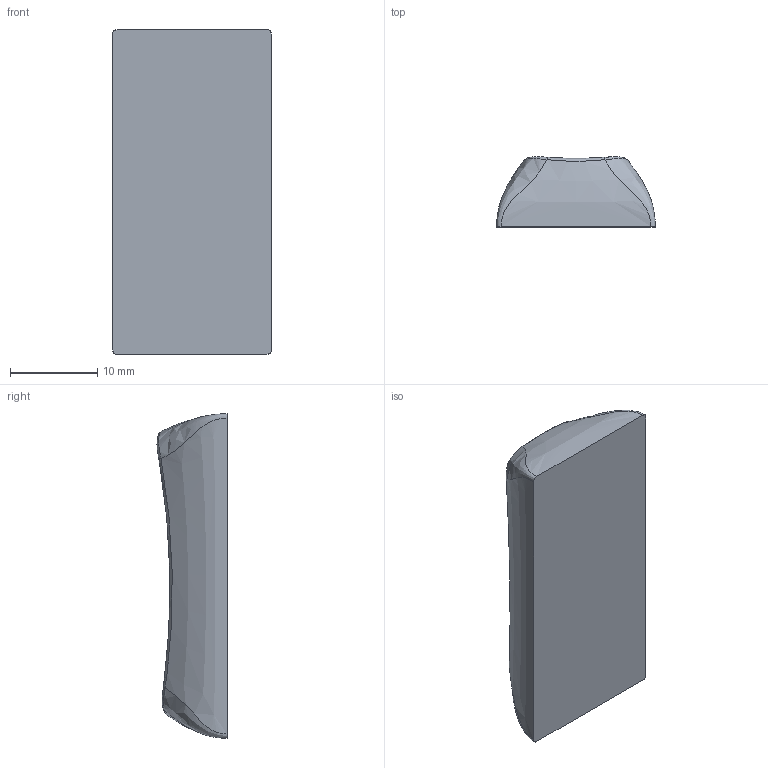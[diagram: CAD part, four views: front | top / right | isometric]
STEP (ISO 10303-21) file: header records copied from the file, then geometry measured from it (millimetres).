
FILE_DESCRIPTION (( 'STEP AP203' ), '1' );
FILE_NAME ('R2+3_2U-vertikal_base_v3.2.1_GMK.STEP', '2023-03-07T10:55:59', ( '' ), ( '' ), 'SwSTEP 2.0', 'SolidWorks 2022', '' );
FILE_SCHEMA (( 'CONFIG_CONTROL_DESIGN' ));
Length unit declared in the file: millimetre
Products named in the file (1): R2+3_2U-vertikal_base_v3.2.1_GMK
Bounding box: 18.2 x 8.03 x 37.25 mm (x, y, z)
Volume: 3964.4 mm3; surface area: 1865.1 mm2
Topology: 1 solids, 1 shells, 18 faces, 40 edges, 24 vertices
Faces by surface type: bspline 17, plane 1
Entity records: 3156 total; most frequent: CARTESIAN_POINT 2825, ORIENTED_EDGE 80, EDGE_CURVE 40, B_SPLINE_CURVE_WITH_KNOTS 36, VERTEX_POINT 24, EDGE_LOOP 18, FACE_OUTER_BOUND 18, ADVANCED_FACE 18
